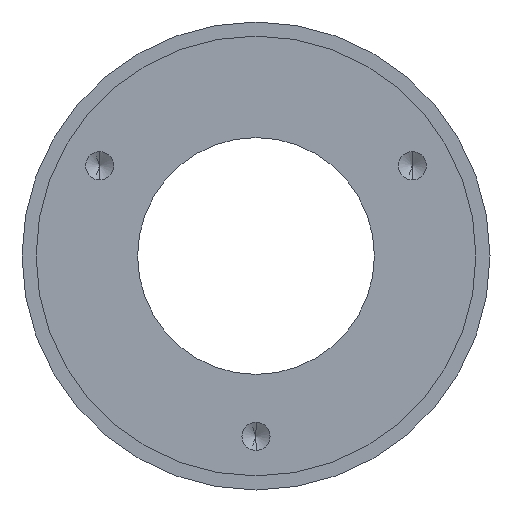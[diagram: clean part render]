
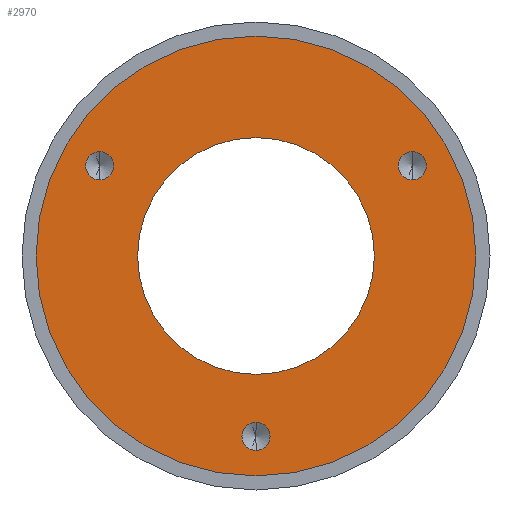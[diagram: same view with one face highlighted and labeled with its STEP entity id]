
A CAD part, front view. The second image highlights one B-rep face of the part: STEP entity #2970.
In plain terms, the highlighted planar face has unit normal (0, -1, 0).
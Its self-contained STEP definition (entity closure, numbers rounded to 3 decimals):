
#45 = DIRECTION ( 'NONE',  ( 0., 1., 0. ) ) ;
#68 = DIRECTION ( 'NONE',  ( 0., 0., -1. ) ) ;
#70 = EDGE_CURVE ( 'NONE', #4825, #590, #748, .T. ) ;
#88 = ORIENTED_EDGE ( 'NONE', *, *, #3371, .T. ) ;
#126 = AXIS2_PLACEMENT_3D ( 'NONE', #2262, #3143, #3618 ) ;
#172 = VERTEX_POINT ( 'NONE', #2044 ) ;
#211 = ORIENTED_EDGE ( 'NONE', *, *, #2057, .F. ) ;
#228 = CARTESIAN_POINT ( 'NONE',  ( 13.856, 0., 6.75 ) ) ;
#303 = AXIS2_PLACEMENT_3D ( 'NONE', #1217, #3775, #1240 ) ;
#365 = DIRECTION ( 'NONE',  ( 0., -1., 0. ) ) ;
#386 = AXIS2_PLACEMENT_3D ( 'NONE', #3680, #3592, #1910 ) ;
#392 = AXIS2_PLACEMENT_3D ( 'NONE', #4295, #3347, #905 ) ;
#474 = AXIS2_PLACEMENT_3D ( 'NONE', #2719, #5161, #3076 ) ;
#494 = ORIENTED_EDGE ( 'NONE', *, *, #2443, .F. ) ;
#541 = FACE_BOUND ( 'NONE', #2823, .T. ) ;
#542 = DIRECTION ( 'NONE',  ( 0., 0., -1. ) ) ;
#556 = AXIS2_PLACEMENT_3D ( 'NONE', #4127, #365, #2100 ) ;
#560 = CIRCLE ( 'NONE', #4350, 1.25 ) ;
#590 = VERTEX_POINT ( 'NONE', #3469 ) ;
#625 = DIRECTION ( 'NONE',  ( 0., 1., 0. ) ) ;
#658 = CIRCLE ( 'NONE', #3738, 1.25 ) ;
#723 = EDGE_CURVE ( 'NONE', #2402, #2105, #3200, .T. ) ;
#748 = CIRCLE ( 'NONE', #386, 1.25 ) ;
#842 = CIRCLE ( 'NONE', #1449, 19.5 ) ;
#865 = EDGE_CURVE ( 'NONE', #3604, #4993, #658, .T. ) ;
#905 = DIRECTION ( 'NONE',  ( 0., 0., -1. ) ) ;
#990 = VERTEX_POINT ( 'NONE', #1838 ) ;
#1178 = ORIENTED_EDGE ( 'NONE', *, *, #4547, .F. ) ;
#1196 = EDGE_CURVE ( 'NONE', #990, #4121, #2758, .T. ) ;
#1217 = CARTESIAN_POINT ( 'NONE',  ( 0., 0., 0. ) ) ;
#1240 = DIRECTION ( 'NONE',  ( 0., 0., 1. ) ) ;
#1346 = CARTESIAN_POINT ( 'NONE',  ( 0., 0., -16. ) ) ;
#1435 = CARTESIAN_POINT ( 'NONE',  ( 0., 0., -19.5 ) ) ;
#1449 = AXIS2_PLACEMENT_3D ( 'NONE', #5440, #45, #1653 ) ;
#1653 = DIRECTION ( 'NONE',  ( 0., 0., 1. ) ) ;
#1754 = DIRECTION ( 'NONE',  ( 0., -1., 0. ) ) ;
#1838 = CARTESIAN_POINT ( 'NONE',  ( -13.856, 0., 9.25 ) ) ;
#1879 = CIRCLE ( 'NONE', #4448, 1.25 ) ;
#1898 = EDGE_LOOP ( 'NONE', ( #211, #4463 ) ) ;
#1910 = DIRECTION ( 'NONE',  ( 0., 0., -1. ) ) ;
#2044 = CARTESIAN_POINT ( 'NONE',  ( 0., 0., 19.5 ) ) ;
#2057 = EDGE_CURVE ( 'NONE', #4121, #990, #4174, .T. ) ;
#2071 = CIRCLE ( 'NONE', #126, 19.5 ) ;
#2100 = DIRECTION ( 'NONE',  ( 0., 0., -1. ) ) ;
#2105 = VERTEX_POINT ( 'NONE', #3336 ) ;
#2146 = DIRECTION ( 'NONE',  ( 0., 0., -1. ) ) ;
#2248 = CARTESIAN_POINT ( 'NONE',  ( 0., 0., 0. ) ) ;
#2262 = CARTESIAN_POINT ( 'NONE',  ( 0., 0., 0. ) ) ;
#2274 = PLANE ( 'NONE',  #4442 ) ;
#2299 = DIRECTION ( 'NONE',  ( 0., 0., 1. ) ) ;
#2389 = CARTESIAN_POINT ( 'NONE',  ( 0., 0., -14.75 ) ) ;
#2394 = CARTESIAN_POINT ( 'NONE',  ( 13.856, 0., 9.25 ) ) ;
#2402 = VERTEX_POINT ( 'NONE', #4537 ) ;
#2443 = EDGE_CURVE ( 'NONE', #590, #4825, #560, .T. ) ;
#2456 = ORIENTED_EDGE ( 'NONE', *, *, #5274, .F. ) ;
#2719 = CARTESIAN_POINT ( 'NONE',  ( 0., 0., 0. ) ) ;
#2758 = CIRCLE ( 'NONE', #392, 1.25 ) ;
#2782 = ORIENTED_EDGE ( 'NONE', *, *, #865, .F. ) ;
#2820 = CARTESIAN_POINT ( 'NONE',  ( -13.856, 0., 6.75 ) ) ;
#2823 = EDGE_LOOP ( 'NONE', ( #88, #3932 ) ) ;
#2970 = ADVANCED_FACE ( 'NONE', ( #4323, #5235, #4409, #541, #3967 ), #2274, .F. ) ;
#3076 = DIRECTION ( 'NONE',  ( 0., 0., 1. ) ) ;
#3143 = DIRECTION ( 'NONE',  ( 0., 1., 0. ) ) ;
#3145 = EDGE_LOOP ( 'NONE', ( #2456, #1178 ) ) ;
#3200 = CIRCLE ( 'NONE', #303, 10.5 ) ;
#3264 = ORIENTED_EDGE ( 'NONE', *, *, #70, .F. ) ;
#3336 = CARTESIAN_POINT ( 'NONE',  ( 0., 0., 10.5 ) ) ;
#3347 = DIRECTION ( 'NONE',  ( 0., -1., 0. ) ) ;
#3371 = EDGE_CURVE ( 'NONE', #2105, #2402, #4099, .T. ) ;
#3384 = CARTESIAN_POINT ( 'NONE',  ( 13.856, 0., 8. ) ) ;
#3469 = CARTESIAN_POINT ( 'NONE',  ( 0., 0., -17.25 ) ) ;
#3592 = DIRECTION ( 'NONE',  ( 0., -1., 0. ) ) ;
#3604 = VERTEX_POINT ( 'NONE', #2394 ) ;
#3618 = DIRECTION ( 'NONE',  ( 0., 0., 1. ) ) ;
#3680 = CARTESIAN_POINT ( 'NONE',  ( 0., 0., -16. ) ) ;
#3718 = EDGE_LOOP ( 'NONE', ( #494, #3264 ) ) ;
#3738 = AXIS2_PLACEMENT_3D ( 'NONE', #3384, #5081, #68 ) ;
#3758 = EDGE_CURVE ( 'NONE', #4993, #3604, #1879, .T. ) ;
#3775 = DIRECTION ( 'NONE',  ( 0., 1., 0. ) ) ;
#3910 = CARTESIAN_POINT ( 'NONE',  ( 13.856, 0., 8. ) ) ;
#3932 = ORIENTED_EDGE ( 'NONE', *, *, #723, .T. ) ;
#3967 = FACE_OUTER_BOUND ( 'NONE', #3145, .T. ) ;
#4099 = CIRCLE ( 'NONE', #474, 10.5 ) ;
#4121 = VERTEX_POINT ( 'NONE', #2820 ) ;
#4127 = CARTESIAN_POINT ( 'NONE',  ( -13.856, 0., 8. ) ) ;
#4174 = CIRCLE ( 'NONE', #556, 1.25 ) ;
#4295 = CARTESIAN_POINT ( 'NONE',  ( -13.856, 0., 8. ) ) ;
#4323 = FACE_BOUND ( 'NONE', #1898, .T. ) ;
#4350 = AXIS2_PLACEMENT_3D ( 'NONE', #1346, #4724, #2146 ) ;
#4409 = FACE_BOUND ( 'NONE', #3718, .T. ) ;
#4442 = AXIS2_PLACEMENT_3D ( 'NONE', #2248, #625, #2299 ) ;
#4448 = AXIS2_PLACEMENT_3D ( 'NONE', #3910, #1754, #542 ) ;
#4463 = ORIENTED_EDGE ( 'NONE', *, *, #1196, .F. ) ;
#4537 = CARTESIAN_POINT ( 'NONE',  ( 0., 0., -10.5 ) ) ;
#4547 = EDGE_CURVE ( 'NONE', #172, #5334, #842, .T. ) ;
#4724 = DIRECTION ( 'NONE',  ( 0., -1., 0. ) ) ;
#4759 = ORIENTED_EDGE ( 'NONE', *, *, #3758, .F. ) ;
#4825 = VERTEX_POINT ( 'NONE', #2389 ) ;
#4993 = VERTEX_POINT ( 'NONE', #228 ) ;
#5081 = DIRECTION ( 'NONE',  ( 0., -1., 0. ) ) ;
#5161 = DIRECTION ( 'NONE',  ( 0., 1., 0. ) ) ;
#5172 = EDGE_LOOP ( 'NONE', ( #4759, #2782 ) ) ;
#5235 = FACE_BOUND ( 'NONE', #5172, .T. ) ;
#5274 = EDGE_CURVE ( 'NONE', #5334, #172, #2071, .T. ) ;
#5334 = VERTEX_POINT ( 'NONE', #1435 ) ;
#5440 = CARTESIAN_POINT ( 'NONE',  ( 0., 0., 0. ) ) ;
